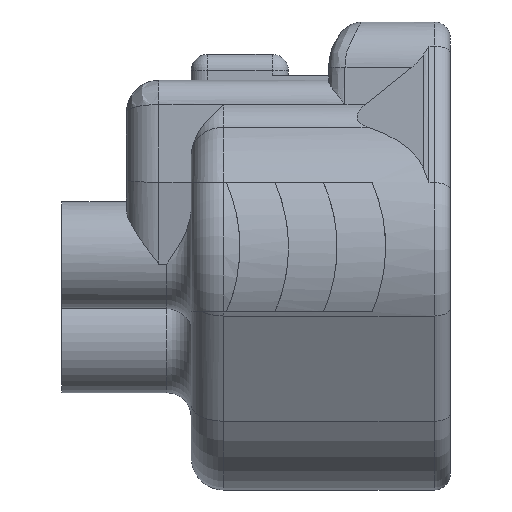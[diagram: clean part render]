
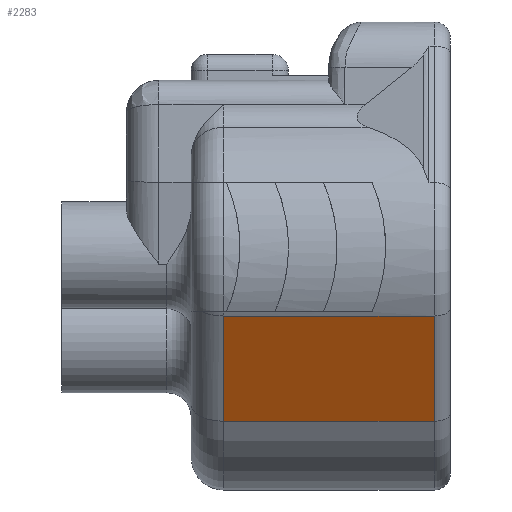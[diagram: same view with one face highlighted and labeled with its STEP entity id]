
A CAD part, front view. The second image highlights one B-rep face of the part: STEP entity #2283.
In plain terms, the highlighted planar face has unit normal (0, -0.866, -0.5).
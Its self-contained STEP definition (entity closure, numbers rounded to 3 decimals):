
#1163=CARTESIAN_POINT('Vertex',(-14.,-4.361,-9.45)) ;
#1166=CARTESIAN_POINT('Line Origine',(-14.,-6.787,-5.249)) ;
#1170=CARTESIAN_POINT('Vertex',(-14.,-8.111,-2.955)) ;
#1625=CARTESIAN_POINT('Line Origine',(-8.,-8.111,-2.955)) ;
#1629=CARTESIAN_POINT('Vertex',(-1.,-8.111,-2.955)) ;
#2252=CARTESIAN_POINT('Vertex',(-1.,-4.361,-9.45)) ;
#2255=CARTESIAN_POINT('Line Origine',(-8.,-4.361,-9.45)) ;
#2267=CARTESIAN_POINT('Axis2P3D Location',(0.,-4.361,-9.45)) ;
#2272=CARTESIAN_POINT('Line Origine',(-1.,-6.236,-6.202)) ;
#1167=DIRECTION('Vector Direction',(0.,0.5,-0.866)) ;
#1626=DIRECTION('Vector Direction',(1.,0.,0.)) ;
#2256=DIRECTION('Vector Direction',(1.,0.,0.)) ;
#2268=DIRECTION('Axis2P3D Direction',(-0.,-0.866,-0.5)) ;
#2269=DIRECTION('Axis2P3D XDirection',(0.,-0.5,0.866)) ;
#2273=DIRECTION('Vector Direction',(0.,0.5,-0.866)) ;
#2270=AXIS2_PLACEMENT_3D('Plane Axis2P3D',#2267,#2268,#2269) ;
#2278=ORIENTED_EDGE('',*,*,#2259,.F.) ;
#2279=ORIENTED_EDGE('',*,*,#2276,.T.) ;
#2280=ORIENTED_EDGE('',*,*,#1631,.T.) ;
#2281=ORIENTED_EDGE('',*,*,#1172,.T.) ;
#1168=VECTOR('Line Direction',#1167,1.) ;
#1627=VECTOR('Line Direction',#1626,1.) ;
#2257=VECTOR('Line Direction',#2256,1.) ;
#2274=VECTOR('Line Direction',#2273,1.) ;
#2283=ADVANCED_FACE('\X2\FF8AFF9FFF70FF82\X0\ \X2\FF8EFF9EFF83FF9EFF68FF70\X0\',(#2282),#2271,.T.) ;
#1172=EDGE_CURVE('',#1171,#1164,#1169,.T.) ;
#1631=EDGE_CURVE('',#1630,#1171,#1628,.F.) ;
#2259=EDGE_CURVE('',#2253,#1164,#2258,.F.) ;
#2276=EDGE_CURVE('',#2253,#1630,#2275,.F.) ;
#2277=EDGE_LOOP('',(#2278,#2279,#2280,#2281)) ;
#2282=FACE_OUTER_BOUND('',#2277,.T.) ;
#1169=LINE('Line',#1166,#1168) ;
#1628=LINE('Line',#1625,#1627) ;
#2258=LINE('Line',#2255,#2257) ;
#2275=LINE('Line',#2272,#2274) ;
#2271=PLANE('',#2270) ;
#1164=VERTEX_POINT('',#1163) ;
#1171=VERTEX_POINT('',#1170) ;
#1630=VERTEX_POINT('',#1629) ;
#2253=VERTEX_POINT('',#2252) ;
